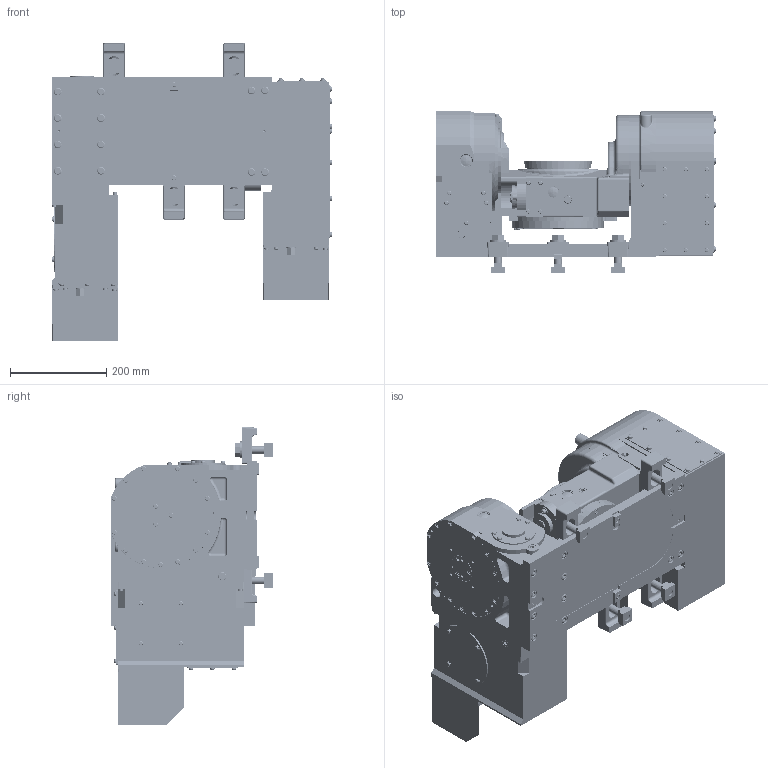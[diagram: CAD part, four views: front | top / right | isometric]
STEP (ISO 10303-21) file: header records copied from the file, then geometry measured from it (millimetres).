
FILE_DESCRIPTION (( 'STEP AP214' ), '1' );
FILE_NAME ('【掲載用】TT140付加軸.STEP', '2019-10-10T06:26:56', ( '' ), ( '' ), 'SwSTEP 2.0', 'SolidWorks 2017', '' );
FILE_SCHEMA (( 'AUTOMOTIVE_DESIGN' ));
Length unit declared in the file: millimetre
Products named in the file (29): コネクタカバー（61E3639910）; コネクタプレート(61E4618550)TT140AF-62; 僇僶乕丂俹(61E4458433)MR250RAM01; モータケース(61E280985)旧61E270783; CLAMPING PARTS（61E424758）; モータケース(61E272758)旧61E252257; TABLE(61E3817261)TT140A00; アダプタ(61E381607); BODY(61E250444)TT140A00; ガイドブロック(61M4197783); アナプラグ 04; プレート(61E2503798)_標準; アナプラグ 03; BASE(61E250443)TT140A00; オイルゲージ 257; グリスニップル A M6; モータフランジ(61E250281)_回転モデル; ササエ(61E250282)_回転モデル; カバー D(61E454414)_回転モデル; ベース(61E111298)_回転モデル; カバー C(61E454413)_回転モデル; カバー B(61E454412)_回転モデル; 【掲載用】TT140付加軸; シリンダ(61E381670)_回転モデル; ベアリングプッシュプレート(61E381727)_回転モデル; ボデー(61E1132671)_回転モデル; BASE_TT140AF; キタガワシール; SMC KQ2E06-02
Assembly tree (36 placements, depth 4):
  【掲載用】TT140付加軸
    BASE_TT140AF
      BASE(61E250443)TT140A00
        ベース(61E111298)_回転モデル
        ササエ(61E250282)_回転モデル
        グリスニップル A M6
      プレート(61E2503798)_標準
      ガイドブロック(61M4197783)  x2
      アダプタ(61E381607)
      モータケース(61E272758)旧61E252257
      モータケース(61E280985)旧61E270783
      僇僶乕丂俹(61E4458433)MR250RAM01
      コネクタプレート(61E4618550)TT140AF-62  x2
      コネクタカバー（61E3639910）  x2
      SMC KQ2E06-02  x2
      キタガワシール
    BODY(61E250444)TT140A00
      ボデー(61E1132671)_回転モデル
      ベアリングプッシュプレート(61E381727)_回転モデル
      シリンダ(61E381670)_回転モデル
      カバー B(61E454412)_回転モデル
      カバー C(61E454413)_回転モデル
      カバー D(61E454414)_回転モデル
      モータフランジ(61E250281)_回転モデル
      オイルゲージ 257
      アナプラグ 03  x2
      アナプラグ 04
    TABLE(61E3817261)TT140A00
    CLAMPING PARTS（61E424758）  x4
Bounding box: 584.8 x 336 x 621 mm (x, y, z)
Volume: 39150720.6 mm3; surface area: 2445484.3 mm2
Topology: 37 solids, 38 shells, 5124 faces, 12571 edges, 8098 vertices
Faces by surface type: plane 3094, cylinder 1396, cone 379, torus 196, bspline 43, sphere 16
Entity records: 164696 total; most frequent: CARTESIAN_POINT 28638, DIRECTION 24414, ORIENTED_EDGE 23408, EDGE_CURVE 11704, LINE 8224, VECTOR 8224, AXIS2_PLACEMENT_3D 8095, VERTEX_POINT 7606
